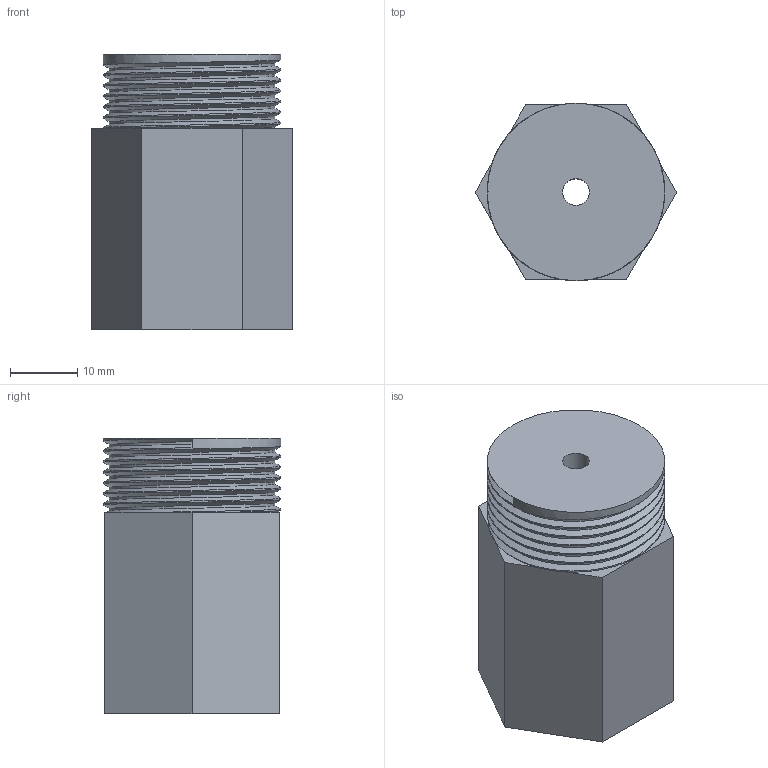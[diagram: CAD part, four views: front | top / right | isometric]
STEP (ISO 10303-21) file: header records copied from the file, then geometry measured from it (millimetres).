
FILE_DESCRIPTION (( 'STEP AP203' ), '1' );
FILE_NAME ('压力炉连接件7-配合连接件6.STEP', '2026-05-25T03:29:10', ( '' ), ( '' ), 'SwSTEP 2.0', 'SolidWorks 2025', '' );
FILE_SCHEMA (( 'CONFIG_CONTROL_DESIGN' ));
Length unit declared in the file: millimetre
Products named in the file (1): 压力炉连接件7-配合连接件6
Bounding box: 30 x 26.44 x 41 mm (x, y, z)
Volume: 22654.8 mm3; surface area: 5800.1 mm2
Topology: 1 solids, 1 shells, 33 faces, 87 edges, 56 vertices
Faces by surface type: cylinder 17, plane 13, bspline 3
Entity records: 2633 total; most frequent: CARTESIAN_POINT 1841, ORIENTED_EDGE 174, DIRECTION 114, EDGE_CURVE 87, VERTEX_POINT 56, LINE 40, VECTOR 40, AXIS2_PLACEMENT_3D 37
